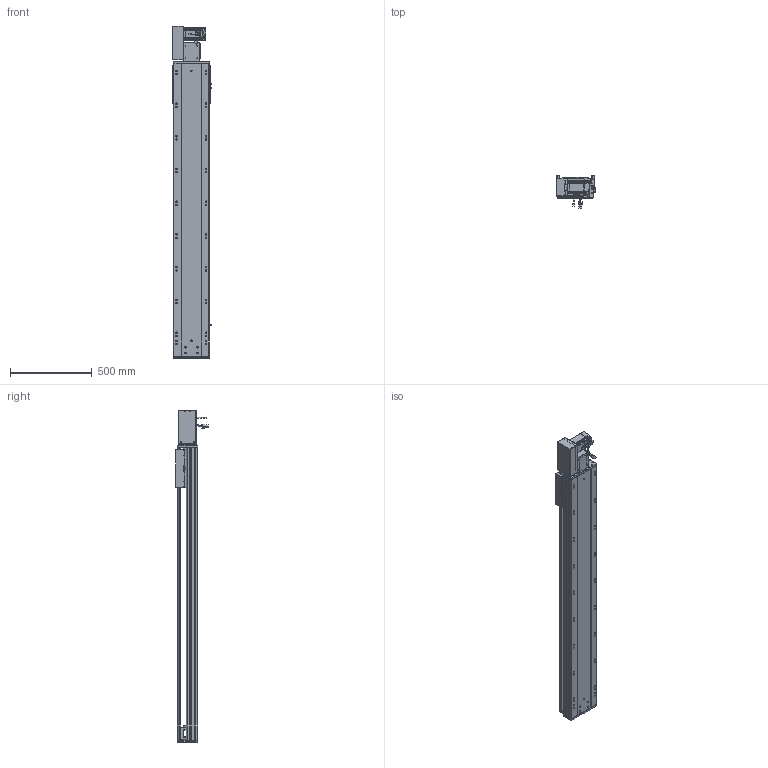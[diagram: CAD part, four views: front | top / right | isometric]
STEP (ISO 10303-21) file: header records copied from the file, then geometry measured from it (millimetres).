
FILE_DESCRIPTION (( 'STEP AP203' ), '1' );
FILE_NAME ('RY220-T-300-LK.SLDASM_1450.step', '2022-07-25T08:14:29', ( '' ), ( '' ), 'SwSTEP 2.0', 'SolidWorks 2016', '' );
FILE_SCHEMA (( 'CONFIG_CONTROL_DESIGN' ));
Length unit declared in the file: millimetre
Products named in the file (14): RY220翋肮祭謫裔啣; 覜茼ん672; RY220-俋离672覜茼んえ; 滅袉蝶18-15; 怢湛750W_ECMA-CX0807ES; RY220-T-300-LK.SLDASM_1450; RY220-T菁釱-300_1450; RY220-T-蛌殏萇儂假蚾啣(750W); RY220翋肮祭謫釱; RY220-同步轮副支撑座6304×2; RY220-T-湍謫欶(鍼踢); 110A-T-肮祭謫釱傷裔; RY220圉猾敕々湍臏賑輸; RY220-T-300-奻裔啣_1450
Assembly tree (18 placements, depth 2):
  RY220-T-300-LK.SLDASM_1450
    RY220-T菁釱-300_1450
    RY220翋肮祭謫釱
    覜茼ん672  x3
    RY220圉猾敕々湍臏賑輸
    RY220-T-300-奻裔啣_1450
    RY220-俋离672覜茼んえ
    滅袉蝶18-15  x3
    RY220翋肮祭謫裔啣  x2
    110A-T-肮祭謫釱傷裔
    怢湛750W_ECMA-CX0807ES
    RY220-T-湍謫欶(鍼踢)
    RY220-T-蛌殏萇儂假蚾啣(750W)
    RY220-同步轮副支撑座6304×2
Bounding box: 239.7 x 198.77 x 2029 mm (x, y, z)
Volume: 15169246.9 mm3; surface area: 4530125.3 mm2
Topology: 19 solids, 19 shells, 2722 faces, 7519 edges, 4756 vertices
Faces by surface type: cylinder 1294, plane 1069, cone 277, bspline 56, sphere 16, torus 10
Entity records: 90707 total; most frequent: CARTESIAN_POINT 25829, ORIENTED_EDGE 13466, DIRECTION 12792, EDGE_CURVE 6733, AXIS2_PLACEMENT_3D 4548, VERTEX_POINT 4380, LINE 3696, VECTOR 3696
